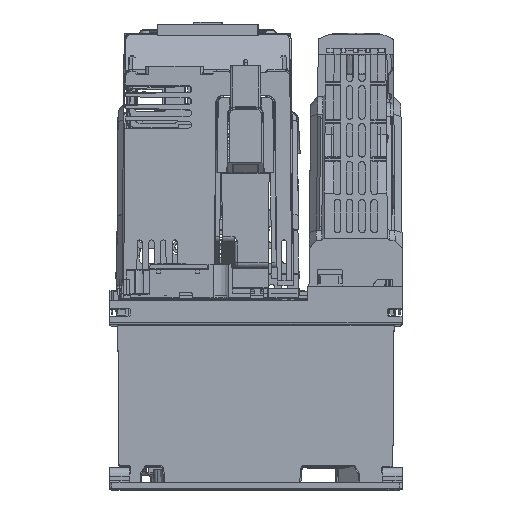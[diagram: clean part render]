
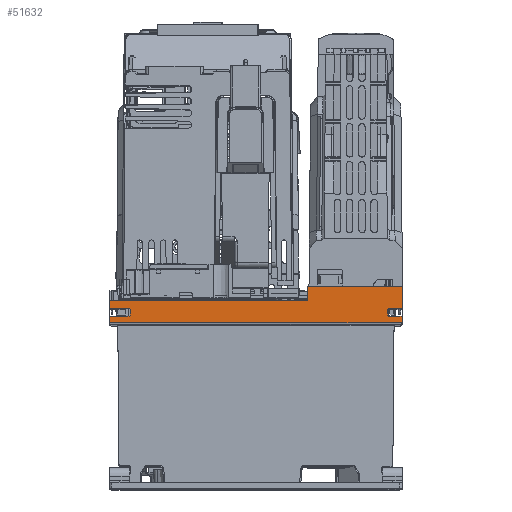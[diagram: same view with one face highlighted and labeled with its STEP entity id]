
A CAD part, top view. The second image highlights one B-rep face of the part: STEP entity #51632.
In plain terms, the highlighted planar face has unit normal (0, 0, 1).
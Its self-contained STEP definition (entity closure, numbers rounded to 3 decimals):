
#131=DIRECTION('',(1.,0.,0.));
#132=VECTOR('',#131,5.477);
#133=CARTESIAN_POINT('',(56.277,3.546,182.25));
#134=LINE('',#133,#132);
#135=DIRECTION('',(-0.009,-1.,0.));
#136=VECTOR('',#135,2.798);
#137=CARTESIAN_POINT('',(61.754,3.546,182.25));
#138=LINE('',#137,#136);
#139=DIRECTION('',(-1.,0.,0.));
#140=VECTOR('',#139,123.46);
#141=CARTESIAN_POINT('',(61.73,0.748,182.25));
#142=LINE('',#141,#140);
#143=DIRECTION('',(0.009,-1.,0.));
#144=VECTOR('',#143,2.798);
#145=CARTESIAN_POINT('',(-61.754,3.546,182.25));
#146=LINE('',#145,#144);
#147=DIRECTION('',(1.,0.,0.));
#148=VECTOR('',#147,8.151);
#149=CARTESIAN_POINT('',(-61.754,3.546,182.25));
#150=LINE('',#149,#148);
#151=CARTESIAN_POINT('',(-53.604,3.546,182.25));
#152=CARTESIAN_POINT('',(-53.571,3.546,182.25));
#153=CARTESIAN_POINT('',(-53.505,3.552,182.25));
#154=CARTESIAN_POINT('',(-53.399,3.585,182.25));
#155=CARTESIAN_POINT('',(-53.293,3.647,182.25));
#156=CARTESIAN_POINT('',(-53.197,3.743,182.25));
#157=CARTESIAN_POINT('',(-53.125,3.876,182.25));
#158=CARTESIAN_POINT('',(-53.104,3.986,182.25));
#159=CARTESIAN_POINT('',(-53.104,4.046,182.25));
#161=DIRECTION('',(0.,1.,0.));
#162=VECTOR('',#161,2.408);
#163=CARTESIAN_POINT('',(-53.104,4.046,182.25));
#164=LINE('',#163,#162);
#165=CARTESIAN_POINT('',(-53.104,6.454,182.25));
#166=CARTESIAN_POINT('',(-53.104,6.486,182.25));
#167=CARTESIAN_POINT('',(-53.11,6.552,182.25));
#168=CARTESIAN_POINT('',(-53.142,6.659,182.25));
#169=CARTESIAN_POINT('',(-53.205,6.764,182.25));
#170=CARTESIAN_POINT('',(-53.3,6.86,182.25));
#171=CARTESIAN_POINT('',(-53.434,6.933,182.25));
#172=CARTESIAN_POINT('',(-53.543,6.954,182.25));
#173=CARTESIAN_POINT('',(-53.604,6.954,182.25));
#175=DIRECTION('',(-1.,0.,0.));
#176=VECTOR('',#175,8.181);
#177=CARTESIAN_POINT('',(-53.604,6.954,182.25));
#178=LINE('',#177,#176);
#179=DIRECTION('',(0.009,-1.,0.));
#180=VECTOR('',#179,3.246);
#181=CARTESIAN_POINT('',(-61.812,10.2,182.25));
#182=LINE('',#181,#180);
#183=DIRECTION('',(1.,0.,0.));
#184=VECTOR('',#183,83.319);
#185=CARTESIAN_POINT('',(-61.812,10.2,182.25));
#186=LINE('',#185,#184);
#187=CARTESIAN_POINT('',(21.506,10.4,182.25));
#188=DIRECTION('',(0.,0.,1.));
#189=DIRECTION('',(0.,-1.,0.));
#190=AXIS2_PLACEMENT_3D('',#187,#188,#189);
#192=DIRECTION('',(0.035,0.999,0.));
#193=VECTOR('',#192,5.56);
#194=CARTESIAN_POINT('',(21.706,10.393,182.25));
#195=LINE('',#194,#193);
#196=DIRECTION('',(-0.009,-1.,0.));
#197=VECTOR('',#196,8.997);
#198=CARTESIAN_POINT('',(61.863,15.95,182.25));
#199=LINE('',#198,#197);
#200=DIRECTION('',(-1.,0.,0.));
#201=VECTOR('',#200,5.507);
#202=CARTESIAN_POINT('',(61.784,6.954,182.25));
#203=LINE('',#202,#201);
#204=CARTESIAN_POINT('',(56.277,6.954,182.25));
#205=CARTESIAN_POINT('',(56.245,6.954,182.25));
#206=CARTESIAN_POINT('',(56.179,6.948,182.25));
#207=CARTESIAN_POINT('',(56.072,6.915,182.25));
#208=CARTESIAN_POINT('',(55.967,6.853,182.25));
#209=CARTESIAN_POINT('',(55.871,6.757,182.25));
#210=CARTESIAN_POINT('',(55.798,6.624,182.25));
#211=CARTESIAN_POINT('',(55.777,6.514,182.25));
#212=CARTESIAN_POINT('',(55.777,6.454,182.25));
#214=DIRECTION('',(0.,-1.,0.));
#215=VECTOR('',#214,2.408);
#216=CARTESIAN_POINT('',(55.777,6.454,182.25));
#217=LINE('',#216,#215);
#218=CARTESIAN_POINT('',(55.777,4.046,182.25));
#219=CARTESIAN_POINT('',(55.777,4.014,182.25));
#220=CARTESIAN_POINT('',(55.783,3.948,182.25));
#221=CARTESIAN_POINT('',(55.816,3.841,182.25));
#222=CARTESIAN_POINT('',(55.878,3.736,182.25));
#223=CARTESIAN_POINT('',(55.974,3.64,182.25));
#224=CARTESIAN_POINT('',(56.107,3.567,182.25));
#225=CARTESIAN_POINT('',(56.217,3.546,182.25));
#226=CARTESIAN_POINT('',(56.277,3.546,182.25));
#3994=CARTESIAN_POINT('',(61.754,3.546,182.25));
#4024=CARTESIAN_POINT('',(61.784,6.954,182.25));
#4142=CARTESIAN_POINT('',(-61.784,6.954,182.25));
#4172=CARTESIAN_POINT('',(-61.754,3.546,182.25));
#14891=DIRECTION('',(1.,0.,0.));
#14892=VECTOR('',#14891,39.963);
#14893=CARTESIAN_POINT('',(21.9,15.95,182.25));
#14894=LINE('',#14893,#14892);
#38108=CARTESIAN_POINT('',(-61.812,10.2,182.25));
#38110=VERTEX_POINT('',#38108);
#38208=CARTESIAN_POINT('',(21.506,10.2,182.25));
#38209=VERTEX_POINT('',#38208);
#38210=CARTESIAN_POINT('',(21.706,10.393,182.25));
#38211=CARTESIAN_POINT('',(21.9,15.95,182.25));
#38212=VERTEX_POINT('',#38210);
#38213=VERTEX_POINT('',#38211);
#38801=CARTESIAN_POINT('',(61.863,15.95,182.25));
#38802=VERTEX_POINT('',#38801);
#43915=CARTESIAN_POINT('',(61.73,0.748,182.25));
#43917=VERTEX_POINT('',#43915);
#43923=CARTESIAN_POINT('',(-61.73,0.748,182.25));
#43924=VERTEX_POINT('',#43923);
#44035=VERTEX_POINT('',#3994);
#44036=CARTESIAN_POINT('',(56.277,3.546,182.25));
#44037=VERTEX_POINT('',#44036);
#44038=VERTEX_POINT('',#218);
#44039=CARTESIAN_POINT('',(55.777,6.454,182.25));
#44040=VERTEX_POINT('',#44039);
#44041=VERTEX_POINT('',#204);
#44042=VERTEX_POINT('',#4024);
#44045=VERTEX_POINT('',#4142);
#44046=CARTESIAN_POINT('',(-53.604,6.954,182.25));
#44047=VERTEX_POINT('',#44046);
#44048=VERTEX_POINT('',#4172);
#44050=CARTESIAN_POINT('',(-53.604,3.546,182.25));
#44051=VERTEX_POINT('',#44050);
#46088=VERTEX_POINT('',#165);
#46089=CARTESIAN_POINT('',(-53.104,4.046,182.25));
#46090=VERTEX_POINT('',#46089);
#51587=CARTESIAN_POINT('',(0.,0.,182.25));
#51588=DIRECTION('',(0.,0.,1.));
#51589=DIRECTION('',(1.,0.,0.));
#51590=AXIS2_PLACEMENT_3D('',#51587,#51588,#51589);
#51591=PLANE('',#51590);
#51593=ORIENTED_EDGE('',*,*,#51592,.T.);
#51595=ORIENTED_EDGE('',*,*,#51594,.T.);
#51597=ORIENTED_EDGE('',*,*,#51596,.T.);
#51599=ORIENTED_EDGE('',*,*,#51598,.F.);
#51601=ORIENTED_EDGE('',*,*,#51600,.T.);
#51603=ORIENTED_EDGE('',*,*,#51602,.T.);
#51605=ORIENTED_EDGE('',*,*,#51604,.T.);
#51607=ORIENTED_EDGE('',*,*,#51606,.T.);
#51609=ORIENTED_EDGE('',*,*,#51608,.T.);
#51611=ORIENTED_EDGE('',*,*,#51610,.F.);
#51613=ORIENTED_EDGE('',*,*,#51612,.T.);
#51615=ORIENTED_EDGE('',*,*,#51614,.T.);
#51617=ORIENTED_EDGE('',*,*,#51616,.T.);
#51619=ORIENTED_EDGE('',*,*,#51618,.T.);
#51621=ORIENTED_EDGE('',*,*,#51620,.T.);
#51623=ORIENTED_EDGE('',*,*,#51622,.T.);
#51625=ORIENTED_EDGE('',*,*,#51624,.T.);
#51627=ORIENTED_EDGE('',*,*,#51626,.T.);
#51629=ORIENTED_EDGE('',*,*,#51628,.T.);
#51630=EDGE_LOOP('',(#51593,#51595,#51597,#51599,#51601,#51603,#51605,#51607,
#51609,#51611,#51613,#51615,#51617,#51619,#51621,#51623,#51625,#51627,#51629));
#51631=FACE_OUTER_BOUND('',#51630,.F.);
#51632=ADVANCED_FACE('',(#51631),#51591,.T.);
#160=B_SPLINE_CURVE_WITH_KNOTS('',3,(#151,#152,#153,#154,#155,#156,#157,#158,
#159),.UNSPECIFIED.,.F.,.F.,(4,1,1,1,1,1,4),(0.,0.167,
0.333,0.5,0.667,0.833,1.),
.UNSPECIFIED.);
#174=B_SPLINE_CURVE_WITH_KNOTS('',3,(#165,#166,#167,#168,#169,#170,#171,#172,
#173),.UNSPECIFIED.,.F.,.F.,(4,1,1,1,1,1,4),(0.,0.167,
0.333,0.5,0.667,0.833,1.),
.UNSPECIFIED.);
#191=CIRCLE('',#190,0.2);
#213=B_SPLINE_CURVE_WITH_KNOTS('',3,(#204,#205,#206,#207,#208,#209,#210,#211,
#212),.UNSPECIFIED.,.F.,.F.,(4,1,1,1,1,1,4),(0.,0.167,
0.333,0.5,0.667,0.833,1.),
.UNSPECIFIED.);
#227=B_SPLINE_CURVE_WITH_KNOTS('',3,(#218,#219,#220,#221,#222,#223,#224,#225,
#226),.UNSPECIFIED.,.F.,.F.,(4,1,1,1,1,1,4),(0.,0.167,
0.333,0.5,0.667,0.833,1.),
.UNSPECIFIED.);
#51592=EDGE_CURVE('',#44037,#44035,#134,.T.);
#51594=EDGE_CURVE('',#44035,#43917,#138,.T.);
#51596=EDGE_CURVE('',#43917,#43924,#142,.T.);
#51598=EDGE_CURVE('',#44048,#43924,#146,.T.);
#51600=EDGE_CURVE('',#44048,#44051,#150,.T.);
#51602=EDGE_CURVE('',#44051,#46090,#160,.T.);
#51604=EDGE_CURVE('',#46090,#46088,#164,.T.);
#51606=EDGE_CURVE('',#46088,#44047,#174,.T.);
#51608=EDGE_CURVE('',#44047,#44045,#178,.T.);
#51610=EDGE_CURVE('',#38110,#44045,#182,.T.);
#51612=EDGE_CURVE('',#38110,#38209,#186,.T.);
#51614=EDGE_CURVE('',#38209,#38212,#191,.T.);
#51616=EDGE_CURVE('',#38212,#38213,#195,.T.);
#51618=EDGE_CURVE('',#38213,#38802,#14894,.T.);
#51620=EDGE_CURVE('',#38802,#44042,#199,.T.);
#51622=EDGE_CURVE('',#44042,#44041,#203,.T.);
#51624=EDGE_CURVE('',#44041,#44040,#213,.T.);
#51626=EDGE_CURVE('',#44040,#44038,#217,.T.);
#51628=EDGE_CURVE('',#44038,#44037,#227,.T.);
